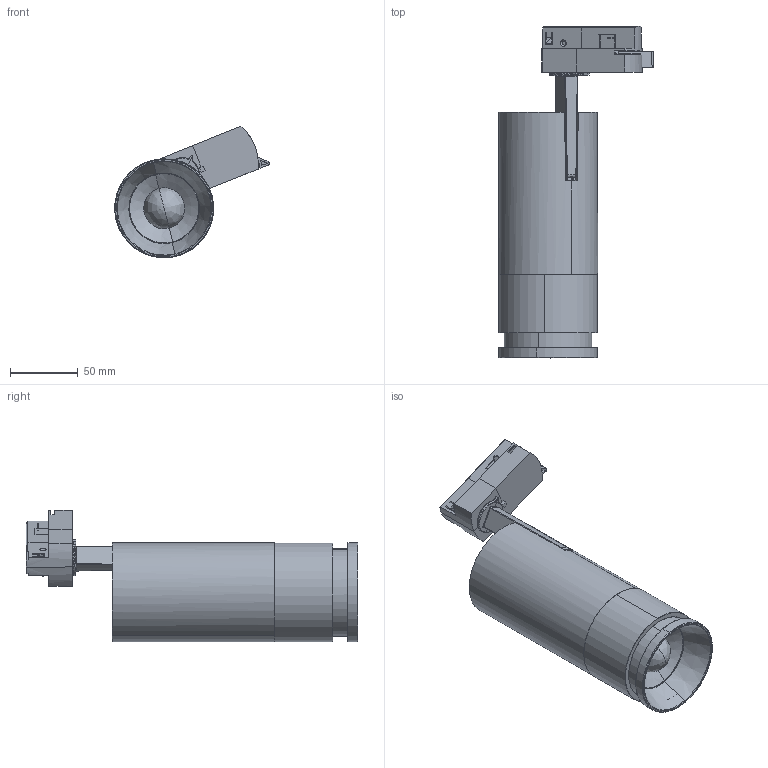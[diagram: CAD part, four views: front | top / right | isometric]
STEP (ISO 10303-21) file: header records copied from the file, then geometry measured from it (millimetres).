
FILE_DESCRIPTION (( 'STEP AP203' ), '1' );
FILE_NAME ('303031.STEP', '2022-03-28T10:02:34', ( 'Windows 蚚誧' ), ( '' ), 'SwSTEP 2.0', 'SolidWorks 2020', '' );
FILE_SCHEMA (( 'CONFIG_CONTROL_DESIGN' ));
Length unit declared in the file: millimetre
Products named in the file (17): 蟀諉裝; 昹沺傑 CLU028; 伸缩圈B; 303031; 綴裔  YA007; 伸缩圈A; POWEGEAR; 鍼踢盓殤; M4蹟譫; holder-4314-A0-1313 1616-3d stp; 303021新开模散热器; 伸缩圈 欧盛; M3X8; 散热铝块; M4X20; 縐銅-1; W1.2466_D55
Assembly tree (18 placements, depth 2):
  303031
    M4X20
    M4蹟譫
    M3X8  x3
    蟀諉裝
    散热铝块
    伸缩圈 欧盛
    W1.2466_D55
    伸缩圈A
    伸缩圈B
    holder-4314-A0-1313 1616-3d stp
    昹沺傑 CLU028
    縐銅-1
    POWEGEAR
    綴裔  YA007
    鍼踢盓殤
    303021新开模散热器
Bounding box: 113.79 x 244.41 x 96.82 mm (x, y, z)
Volume: 301819.5 mm3; surface area: 215893 mm2
Topology: 23 solids, 23 shells, 8999 faces, 25512 edges, 16569 vertices
Faces by surface type: plane 7329, bspline 800, cylinder 575, torus 141, cone 120, sphere 34
Entity records: 308851 total; most frequent: CARTESIAN_POINT 80262, ORIENTED_EDGE 50668, DIRECTION 41811, EDGE_CURVE 25334, VECTOR 21881, LINE 21881, VERTEX_POINT 16529, AXIS2_PLACEMENT_3D 9965
